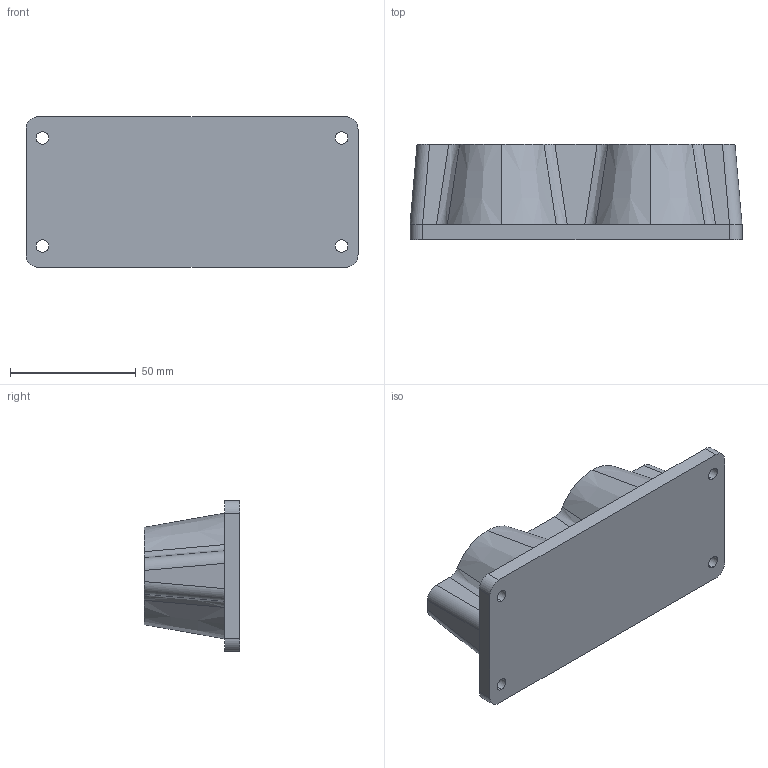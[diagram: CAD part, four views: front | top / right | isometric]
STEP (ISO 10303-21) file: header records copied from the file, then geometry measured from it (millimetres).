
FILE_DESCRIPTION (( 'STEP AP203' ), '1' );
FILE_NAME ('105929.STEP', '2016-02-15T07:28:04', ( '' ), ( '' ), 'SwSTEP 2.0', 'SolidWorks 2016', '' );
FILE_SCHEMA (( 'CONFIG_CONTROL_DESIGN' ));
Length unit declared in the file: millimetre
Products named in the file (1): 105929
Bounding box: 132 x 38 x 60 mm (x, y, z)
Volume: 169358.7 mm3; surface area: 27210 mm2
Topology: 1 solids, 1 shells, 46 faces, 128 edges, 84 vertices
Faces by surface type: cylinder 16, plane 16, bspline 8, cone 6
Entity records: 1825 total; most frequent: CARTESIAN_POINT 635, ORIENTED_EDGE 256, DIRECTION 202, EDGE_CURVE 128, VERTEX_POINT 84, AXIS2_PLACEMENT_3D 75, EDGE_LOOP 54, VECTOR 52
